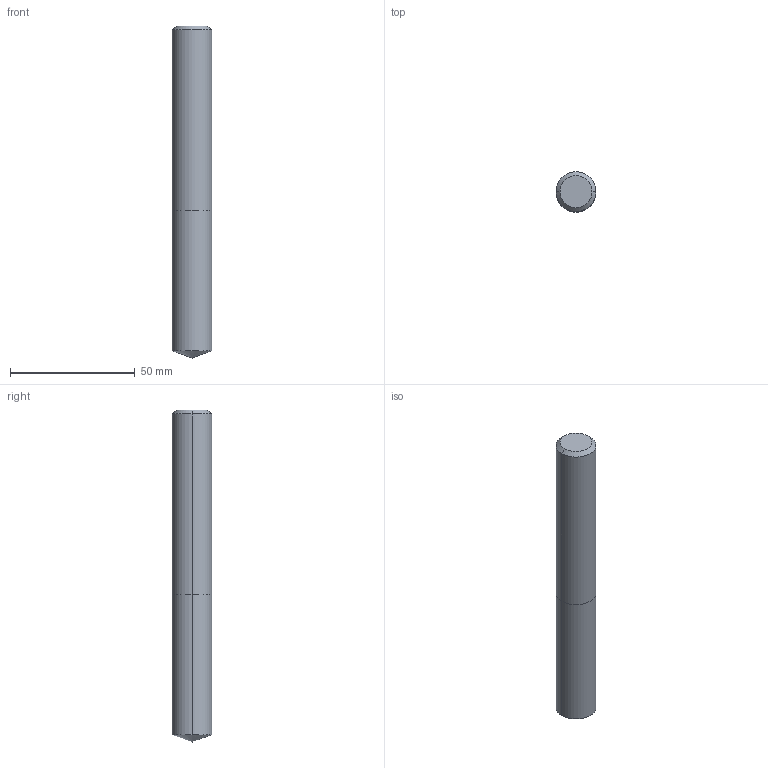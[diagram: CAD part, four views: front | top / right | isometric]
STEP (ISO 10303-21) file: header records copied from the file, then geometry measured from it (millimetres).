
FILE_DESCRIPTION (( 'STEP AP214' ), '1' );
FILE_NAME ('905.160.00_3D-model.step', '2022-02-24T18:05:22', ( '' ), ( '' ), 'SwSTEP 2.0', 'SolidWorks 2020', '' );
FILE_SCHEMA (( 'AUTOMOTIVE_DESIGN' ));
Length unit declared in the file: millimetre
Products named in the file (3): CUT-3D^Baugr120; 905.160.00_3D-model; NOCUT-3D^Baugr120
Assembly tree (2 placements, depth 2):
  905.160.00_3D-model
    CUT-3D^Baugr120
    NOCUT-3D^Baugr120
Bounding box: 16 x 16 x 133 mm (x, y, z)
Volume: 26291 mm3; surface area: 7305.7 mm2
Topology: 2 solids, 2 shells, 11 faces, 20 edges, 11 vertices
Faces by surface type: cone 4, cylinder 4, plane 3
Entity records: 380 total; most frequent: DIRECTION 66, CARTESIAN_POINT 48, ORIENTED_EDGE 36, AXIS2_PLACEMENT_3D 29, EDGE_CURVE 18, VERTEX_POINT 11, ADVANCED_FACE 11, FACE_OUTER_BOUND 11
